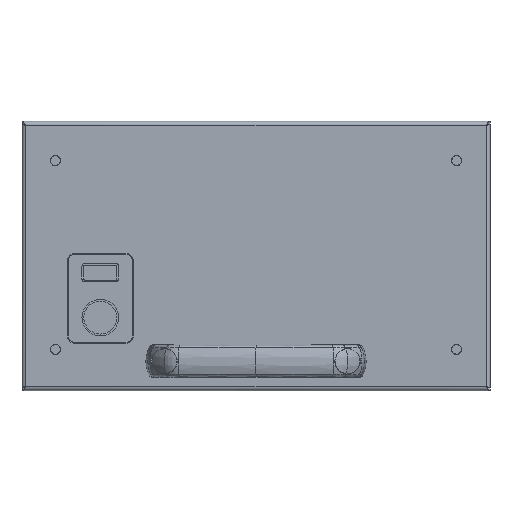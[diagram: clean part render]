
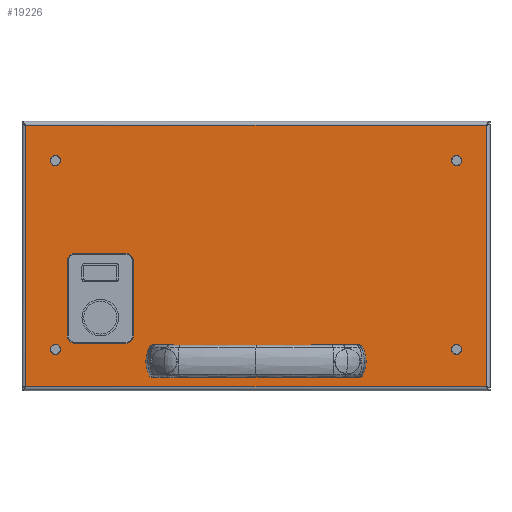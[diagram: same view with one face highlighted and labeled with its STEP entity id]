
A CAD part, top view. The second image highlights one B-rep face of the part: STEP entity #19226.
In plain terms, the highlighted planar face has unit normal (0, 0, 1).
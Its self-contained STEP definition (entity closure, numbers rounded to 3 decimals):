
#18266=CARTESIAN_POINT(' ',(52.75,-57.5,0.));
#18267=VERTEX_POINT(' ',#18266);
#18286=CARTESIAN_POINT(' ',(50.,-57.5,0.));
#18291=DIRECTION(' ',(0.,0.,1.));
#18296=DIRECTION(' ',(1.,0.,0.));
#18301=AXIS2_PLACEMENT_3D(' ',#18286,#18291,#18296);
#18306=CIRCLE('',#18301,2.75);
#18311=CARTESIAN_POINT(' ',(47.25,-57.5,0.));
#18312=VERTEX_POINT(' ',#18311);
#18316=EDGE_CURVE(' ',#18267,#18312,#18306,.T.);
#18486=CARTESIAN_POINT(' ',(50.,-57.5,0.));
#18491=DIRECTION(' ',(0.,0.,1.));
#18496=DIRECTION(' ',(-1.,0.,0.));
#18501=AXIS2_PLACEMENT_3D(' ',#18486,#18491,#18496);
#18506=CIRCLE('',#18501,2.75);
#18511=EDGE_CURVE(' ',#18312,#18267,#18506,.T.);
#18581=DIRECTION(' ',(-0.,-0.,1.));
#18586=CARTESIAN_POINT(' ',(125.65,-71.4,0.));
#18591=DIRECTION(' ',(0.,1.,0.));
#18596=AXIS2_PLACEMENT_3D(' ',#18586,#18581,#18591);
#18601=PLANE('NONE',#18596);
#18606=CARTESIAN_POINT(' ',(125.65,-71.4,0.));
#18611=DIRECTION(' ',(0.,1.,0.));
#18616=VECTOR(' ',#18611,1.);
#18621=LINE('',#18606,#18616);
#18626=CARTESIAN_POINT(' ',(125.65,-71.4,0.));
#18627=VERTEX_POINT(' ',#18626);
#18631=CARTESIAN_POINT(' ',(125.65,71.4,0.));
#18632=VERTEX_POINT(' ',#18631);
#18636=EDGE_CURVE(' ',#18627,#18632,#18621,.T.);
#18641=ORIENTED_EDGE(' ',*,*,#18636,.T.);
#18646=CARTESIAN_POINT(' ',(125.65,71.4,0.));
#18651=DIRECTION(' ',(-1.,0.,0.));
#18656=VECTOR(' ',#18651,1.);
#18661=LINE('',#18646,#18656);
#18666=CARTESIAN_POINT(' ',(-125.65,71.4,0.));
#18667=VERTEX_POINT(' ',#18666);
#18671=EDGE_CURVE(' ',#18632,#18667,#18661,.T.);
#18676=ORIENTED_EDGE(' ',*,*,#18671,.T.);
#18681=CARTESIAN_POINT(' ',(-125.65,71.4,0.));
#18686=DIRECTION(' ',(0.,-1.,0.));
#18691=VECTOR(' ',#18686,1.);
#18696=LINE('',#18681,#18691);
#18701=CARTESIAN_POINT(' ',(-125.65,-71.4,0.));
#18702=VERTEX_POINT(' ',#18701);
#18706=EDGE_CURVE(' ',#18667,#18702,#18696,.T.);
#18711=ORIENTED_EDGE(' ',*,*,#18706,.T.);
#18716=CARTESIAN_POINT(' ',(-125.65,-71.4,0.));
#18721=DIRECTION(' ',(1.,0.,0.));
#18726=VECTOR(' ',#18721,1.);
#18731=LINE('',#18716,#18726);
#18736=EDGE_CURVE(' ',#18702,#18627,#18731,.T.);
#18741=ORIENTED_EDGE(' ',*,*,#18736,.T.);
#18746=EDGE_LOOP(' ',(#18641,#18676,#18711,#18741));
#18751=FACE_OUTER_BOUND(' ',#18746,.T.);
#18756=ORIENTED_EDGE(' ',*,*,#18511,.F.);
#18761=ORIENTED_EDGE(' ',*,*,#18316,.F.);
#18766=EDGE_LOOP(' ',(#18756,#18761));
#18771=FACE_BOUND(' ',#18766,.T.);
#18776=CARTESIAN_POINT(' ',(-109.5,52.,0.));
#18781=DIRECTION(' ',(0.,-0.,-1.));
#18786=DIRECTION(' ',(-1.,0.,0.));
#18791=AXIS2_PLACEMENT_3D(' ',#18776,#18781,#18786);
#18796=CIRCLE('',#18791,2.75);
#18801=CARTESIAN_POINT(' ',(-112.25,52.,0.));
#18802=VERTEX_POINT(' ',#18801);
#18806=CARTESIAN_POINT(' ',(-106.75,52.,0.));
#18807=VERTEX_POINT(' ',#18806);
#18811=EDGE_CURVE(' ',#18802,#18807,#18796,.T.);
#18816=ORIENTED_EDGE(' ',*,*,#18811,.T.);
#18821=CARTESIAN_POINT(' ',(-109.5,52.,0.));
#18826=DIRECTION(' ',(0.,0.,-1.));
#18831=DIRECTION(' ',(1.,0.,0.));
#18836=AXIS2_PLACEMENT_3D(' ',#18821,#18826,#18831);
#18841=CIRCLE('',#18836,2.75);
#18846=EDGE_CURVE(' ',#18807,#18802,#18841,.T.);
#18851=ORIENTED_EDGE(' ',*,*,#18846,.T.);
#18856=EDGE_LOOP(' ',(#18816,#18851));
#18861=FACE_BOUND(' ',#18856,.T.);
#18866=CARTESIAN_POINT(' ',(109.5,-51.,0.));
#18871=DIRECTION(' ',(0.,-0.,-1.));
#18876=DIRECTION(' ',(-1.,0.,0.));
#18881=AXIS2_PLACEMENT_3D(' ',#18866,#18871,#18876);
#18886=CIRCLE('',#18881,2.75);
#18891=CARTESIAN_POINT(' ',(106.75,-51.,0.));
#18892=VERTEX_POINT(' ',#18891);
#18896=CARTESIAN_POINT(' ',(112.25,-51.,0.));
#18897=VERTEX_POINT(' ',#18896);
#18901=EDGE_CURVE(' ',#18892,#18897,#18886,.T.);
#18906=ORIENTED_EDGE(' ',*,*,#18901,.T.);
#18911=CARTESIAN_POINT(' ',(109.5,-51.,0.));
#18916=DIRECTION(' ',(0.,0.,-1.));
#18921=DIRECTION(' ',(1.,0.,0.));
#18926=AXIS2_PLACEMENT_3D(' ',#18911,#18916,#18921);
#18931=CIRCLE('',#18926,2.75);
#18936=EDGE_CURVE(' ',#18897,#18892,#18931,.T.);
#18941=ORIENTED_EDGE(' ',*,*,#18936,.T.);
#18946=EDGE_LOOP(' ',(#18906,#18941));
#18951=FACE_BOUND(' ',#18946,.T.);
#18956=CARTESIAN_POINT(' ',(-109.5,-51.,0.));
#18961=DIRECTION(' ',(0.,-0.,-1.));
#18966=DIRECTION(' ',(-1.,0.,0.));
#18971=AXIS2_PLACEMENT_3D(' ',#18956,#18961,#18966);
#18976=CIRCLE('',#18971,2.75);
#18981=CARTESIAN_POINT(' ',(-112.25,-51.,0.));
#18982=VERTEX_POINT(' ',#18981);
#18986=CARTESIAN_POINT(' ',(-106.75,-51.,0.));
#18987=VERTEX_POINT(' ',#18986);
#18991=EDGE_CURVE(' ',#18982,#18987,#18976,.T.);
#18996=ORIENTED_EDGE(' ',*,*,#18991,.T.);
#19001=CARTESIAN_POINT(' ',(-109.5,-51.,0.));
#19006=DIRECTION(' ',(0.,0.,-1.));
#19011=DIRECTION(' ',(1.,0.,0.));
#19016=AXIS2_PLACEMENT_3D(' ',#19001,#19006,#19011);
#19021=CIRCLE('',#19016,2.75);
#19026=EDGE_CURVE(' ',#18987,#18982,#19021,.T.);
#19031=ORIENTED_EDGE(' ',*,*,#19026,.T.);
#19036=EDGE_LOOP(' ',(#18996,#19031));
#19041=FACE_BOUND(' ',#19036,.T.);
#19046=CARTESIAN_POINT(' ',(109.5,52.,0.));
#19051=DIRECTION(' ',(0.,-0.,-1.));
#19056=DIRECTION(' ',(-1.,0.,0.));
#19061=AXIS2_PLACEMENT_3D(' ',#19046,#19051,#19056);
#19066=CIRCLE('',#19061,2.75);
#19071=CARTESIAN_POINT(' ',(106.75,52.,0.));
#19072=VERTEX_POINT(' ',#19071);
#19076=CARTESIAN_POINT(' ',(112.25,52.,0.));
#19077=VERTEX_POINT(' ',#19076);
#19081=EDGE_CURVE(' ',#19072,#19077,#19066,.T.);
#19086=ORIENTED_EDGE(' ',*,*,#19081,.T.);
#19091=CARTESIAN_POINT(' ',(109.5,52.,0.));
#19096=DIRECTION(' ',(0.,0.,-1.));
#19101=DIRECTION(' ',(1.,0.,0.));
#19106=AXIS2_PLACEMENT_3D(' ',#19091,#19096,#19101);
#19111=CIRCLE('',#19106,2.75);
#19116=EDGE_CURVE(' ',#19077,#19072,#19111,.T.);
#19121=ORIENTED_EDGE(' ',*,*,#19116,.T.);
#19126=EDGE_LOOP(' ',(#19086,#19121));
#19131=FACE_BOUND(' ',#19126,.T.);
#19136=CARTESIAN_POINT(' ',(-50.,-57.5,0.));
#19141=DIRECTION(' ',(0.,0.,1.));
#19146=DIRECTION(' ',(-1.,0.,0.));
#19151=AXIS2_PLACEMENT_3D(' ',#19136,#19141,#19146);
#19156=CIRCLE('',#19151,2.75);
#19161=CARTESIAN_POINT(' ',(-52.75,-57.5,0.));
#19162=VERTEX_POINT(' ',#19161);
#19166=CARTESIAN_POINT(' ',(-47.25,-57.5,0.));
#19167=VERTEX_POINT(' ',#19166);
#19171=EDGE_CURVE(' ',#19162,#19167,#19156,.T.);
#19176=ORIENTED_EDGE(' ',*,*,#19171,.F.);
#19181=CARTESIAN_POINT(' ',(-50.,-57.5,0.));
#19186=DIRECTION(' ',(0.,0.,1.));
#19191=DIRECTION(' ',(1.,0.,0.));
#19196=AXIS2_PLACEMENT_3D(' ',#19181,#19186,#19191);
#19201=CIRCLE('',#19196,2.75);
#19206=EDGE_CURVE(' ',#19167,#19162,#19201,.T.);
#19211=ORIENTED_EDGE(' ',*,*,#19206,.F.);
#19216=EDGE_LOOP(' ',(#19176,#19211));
#19221=FACE_BOUND(' ',#19216,.T.);
#19226=ADVANCED_FACE('NONE',(#18751,#18771,#18861,#18951,#19041,#19131,#19221),#18601,.T.);
